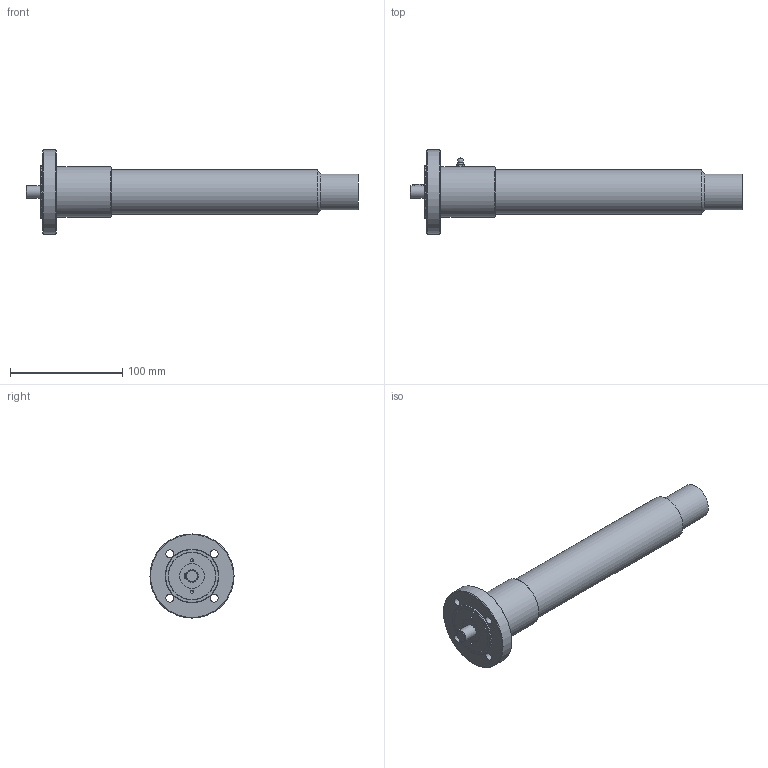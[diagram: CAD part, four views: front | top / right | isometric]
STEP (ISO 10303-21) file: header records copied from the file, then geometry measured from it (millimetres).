
FILE_DESCRIPTION( ( 'Unknown' ), '1' );
FILE_NAME( '//SERVER-OFT/06-01 Planos Distribuidores/EQUIPOS 3D (step)/02 ACTUADORES F/M100/F16-M100.stp', 'Unknown', ( 'Unknown' ), ( 'Unknown' ), 'PSStep 17.0.49', 'Unknown', ' ' );
FILE_SCHEMA( ( 'AUTOMOTIVE_DESIGN { 1 0 10303 214 1 1 1 1 }' ) );
Length unit declared in the file: millimetre
Products named in the file (1): 1
Bounding box: 296 x 75 x 75 mm (x, y, z)
Volume: 371006.8 mm3; surface area: 52132 mm2
Topology: 1 solids, 1 shells, 78 faces, 185 edges, 113 vertices
Faces by surface type: plane 27, cylinder 25, cone 10, bspline 9, torus 6, sphere 1
Full cylindrical faces by diameter (mm): 3 x2, 7 x4, 11 x5, 22 x1, 24.835 x2, 27 x1, 32 x1, 36 x1, 40 x1, 42 x1, 42.5 x1, 45 x1, 48 x1, 75 x1
Entity records: 3637 total; most frequent: CARTESIAN_POINT 1489, DIRECTION 334, ORIENTED_EDGE 236, AXIS2_PLACEMENT_3D 156, EDGE_LOOP 136, EDGE_CURVE 118, FACE_OUTER_BOUND 104, VERTEX_POINT 95
